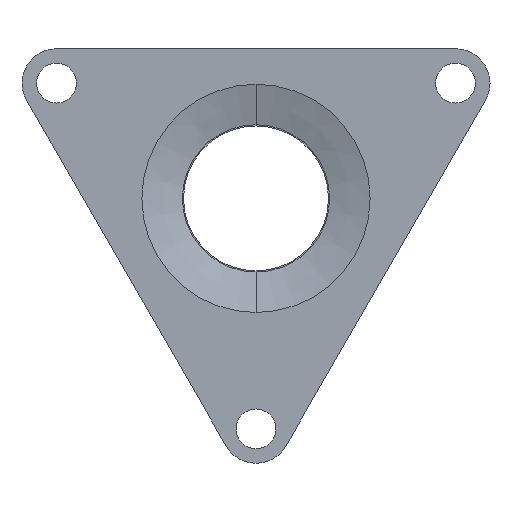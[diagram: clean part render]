
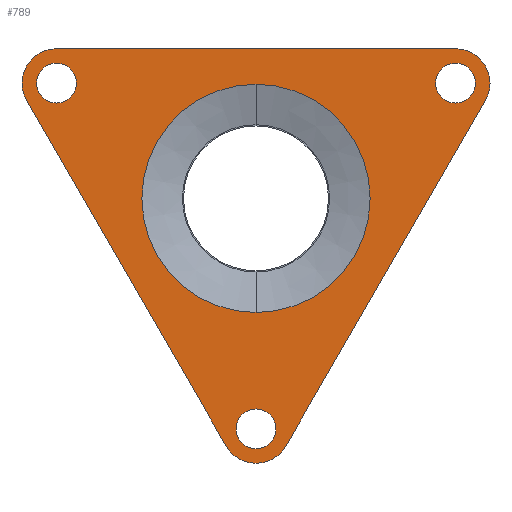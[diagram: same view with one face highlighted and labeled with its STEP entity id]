
A CAD part, front view. The second image highlights one B-rep face of the part: STEP entity #789.
In plain terms, the highlighted planar face has unit normal (0, -1, 0).
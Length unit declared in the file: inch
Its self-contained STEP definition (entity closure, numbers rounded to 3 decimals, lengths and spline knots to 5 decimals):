
#4 = EDGE_LOOP ( 'NONE', ( #362, #107 ) ) ;
#24 = EDGE_CURVE ( 'NONE', #232, #419, #801, .T. ) ;
#26 = FACE_BOUND ( 'NONE', #958, .T. ) ;
#32 = DIRECTION ( 'NONE',  ( 0., 0., 1. ) ) ;
#33 = PLANE ( 'NONE',  #431 ) ;
#39 = FACE_BOUND ( 'NONE', #413, .T. ) ;
#41 = EDGE_CURVE ( 'NONE', #582, #478, #588, .T. ) ;
#53 = DIRECTION ( 'NONE',  ( 0., 0., 1. ) ) ;
#56 = CIRCLE ( 'NONE', #441, 0.18701 ) ;
#60 = DIRECTION ( 'NONE',  ( 1., 0., 0. ) ) ;
#71 = AXIS2_PLACEMENT_3D ( 'NONE', #591, #596, #606 ) ;
#73 = CARTESIAN_POINT ( 'NONE',  ( 1.24622, 0., 0.5325 ) ) ;
#85 = CARTESIAN_POINT ( 'NONE',  ( -1.08426, 0., 0.626 ) ) ;
#102 = EDGE_LOOP ( 'NONE', ( #352, #541 ) ) ;
#107 = ORIENTED_EDGE ( 'NONE', *, *, #264, .T. ) ;
#110 = DIRECTION ( 'NONE',  ( 0., 0., 1. ) ) ;
#112 = AXIS2_PLACEMENT_3D ( 'NONE', #897, #150, #146 ) ;
#120 = VERTEX_POINT ( 'NONE', #148 ) ;
#146 = DIRECTION ( 'NONE',  ( 0., 0., 1. ) ) ;
#148 = CARTESIAN_POINT ( 'NONE',  ( -0.16195, 0., -1.3455 ) ) ;
#149 = CARTESIAN_POINT ( 'NONE',  ( 0., 0., -0.62008 ) ) ;
#150 = DIRECTION ( 'NONE',  ( 0., 1., 0. ) ) ;
#156 = EDGE_CURVE ( 'NONE', #779, #232, #56, .T. ) ;
#162 = VERTEX_POINT ( 'NONE', #73 ) ;
#173 = LINE ( 'NONE', #936, #901 ) ;
#176 = ORIENTED_EDGE ( 'NONE', *, *, #233, .F. ) ;
#186 = DIRECTION ( 'NONE',  ( -0.5, 0., 0.866 ) ) ;
#187 = DIRECTION ( 'NONE',  ( 0., 0., 1. ) ) ;
#189 = VERTEX_POINT ( 'NONE', #304 ) ;
#190 = EDGE_CURVE ( 'NONE', #493, #120, #380, .T. ) ;
#195 = CIRCLE ( 'NONE', #240, 0.10827 ) ;
#204 = EDGE_CURVE ( 'NONE', #517, #773, #619, .T. ) ;
#212 = DIRECTION ( 'NONE',  ( 0., 1., 0. ) ) ;
#224 = CIRCLE ( 'NONE', #339, 0.18701 ) ;
#226 = DIRECTION ( 'NONE',  ( 0., 1., 0. ) ) ;
#229 = DIRECTION ( 'NONE',  ( 0., 1., 0. ) ) ;
#232 = VERTEX_POINT ( 'NONE', #547 ) ;
#233 = EDGE_CURVE ( 'NONE', #120, #779, #173, .T. ) ;
#240 = AXIS2_PLACEMENT_3D ( 'NONE', #85, #456, #686 ) ;
#244 = CARTESIAN_POINT ( 'NONE',  ( 1.08426, 0., 0.626 ) ) ;
#262 = CARTESIAN_POINT ( 'NONE',  ( 0., 0., -1.14373 ) ) ;
#264 = EDGE_CURVE ( 'NONE', #478, #582, #962, .T. ) ;
#280 = LINE ( 'NONE', #578, #510 ) ;
#291 = EDGE_CURVE ( 'NONE', #419, #162, #224, .T. ) ;
#304 = CARTESIAN_POINT ( 'NONE',  ( 1.08426, 0., 0.51773 ) ) ;
#306 = CARTESIAN_POINT ( 'NONE',  ( 1.08426, 0., 0.81301 ) ) ;
#328 = FACE_BOUND ( 'NONE', #4, .T. ) ;
#331 = AXIS2_PLACEMENT_3D ( 'NONE', #434, #914, #32 ) ;
#339 = AXIS2_PLACEMENT_3D ( 'NONE', #244, #790, #844 ) ;
#350 = CARTESIAN_POINT ( 'NONE',  ( 0.16195, 0., -1.3455 ) ) ;
#352 = ORIENTED_EDGE ( 'NONE', *, *, #604, .T. ) ;
#354 = CARTESIAN_POINT ( 'NONE',  ( -1.08426, 0., 0.81301 ) ) ;
#362 = ORIENTED_EDGE ( 'NONE', *, *, #41, .T. ) ;
#367 = VERTEX_POINT ( 'NONE', #350 ) ;
#378 = CARTESIAN_POINT ( 'NONE',  ( 1.08426, 0., 0.626 ) ) ;
#379 = CARTESIAN_POINT ( 'NONE',  ( 0., 0., 0.62008 ) ) ;
#380 = CIRCLE ( 'NONE', #71, 0.18701 ) ;
#383 = DIRECTION ( 'NONE',  ( 0., 1., 0. ) ) ;
#400 = VERTEX_POINT ( 'NONE', #982 ) ;
#412 = DIRECTION ( 'NONE',  ( 0., 1., 0. ) ) ;
#413 = EDGE_LOOP ( 'NONE', ( #701, #618 ) ) ;
#415 = DIRECTION ( 'NONE',  ( 0., 0., 1. ) ) ;
#417 = AXIS2_PLACEMENT_3D ( 'NONE', #849, #552, #415 ) ;
#419 = VERTEX_POINT ( 'NONE', #306 ) ;
#431 = AXIS2_PLACEMENT_3D ( 'NONE', #716, #623, #187 ) ;
#434 = CARTESIAN_POINT ( 'NONE',  ( -1.08426, 0., 0.626 ) ) ;
#436 = ORIENTED_EDGE ( 'NONE', *, *, #876, .T. ) ;
#437 = EDGE_CURVE ( 'NONE', #754, #609, #492, .T. ) ;
#441 = AXIS2_PLACEMENT_3D ( 'NONE', #760, #229, #910 ) ;
#446 = AXIS2_PLACEMENT_3D ( 'NONE', #504, #212, #53 ) ;
#456 = DIRECTION ( 'NONE',  ( 0., 1., 0. ) ) ;
#466 = CARTESIAN_POINT ( 'NONE',  ( 0., 0., -1.252 ) ) ;
#468 = EDGE_LOOP ( 'NONE', ( #762, #983, #956, #759, #707, #176, #655 ) ) ;
#478 = VERTEX_POINT ( 'NONE', #379 ) ;
#492 = CIRCLE ( 'NONE', #112, 0.10827 ) ;
#493 = VERTEX_POINT ( 'NONE', #593 ) ;
#504 = CARTESIAN_POINT ( 'NONE',  ( 1.08426, 0., 0.626 ) ) ;
#510 = VECTOR ( 'NONE', #880, 39.37008 ) ;
#515 = DIRECTION ( 'NONE',  ( 0., 1., 0. ) ) ;
#517 = VERTEX_POINT ( 'NONE', #587 ) ;
#541 = ORIENTED_EDGE ( 'NONE', *, *, #204, .T. ) ;
#547 = CARTESIAN_POINT ( 'NONE',  ( -1.08426, 0., 0.81301 ) ) ;
#552 = DIRECTION ( 'NONE',  ( 0., 1., 0. ) ) ;
#554 = CARTESIAN_POINT ( 'NONE',  ( -1.08426, 0., 0.51773 ) ) ;
#570 = AXIS2_PLACEMENT_3D ( 'NONE', #466, #226, #981 ) ;
#576 = ORIENTED_EDGE ( 'NONE', *, *, #711, .T. ) ;
#578 = CARTESIAN_POINT ( 'NONE',  ( 1.24622, 0., 0.5325 ) ) ;
#582 = VERTEX_POINT ( 'NONE', #149 ) ;
#587 = CARTESIAN_POINT ( 'NONE',  ( -1.08426, 0., 0.73427 ) ) ;
#588 = CIRCLE ( 'NONE', #719, 0.62008 ) ;
#591 = CARTESIAN_POINT ( 'NONE',  ( 0., 0., -1.252 ) ) ;
#593 = CARTESIAN_POINT ( 'NONE',  ( 0., 0., -1.43901 ) ) ;
#596 = DIRECTION ( 'NONE',  ( 0., 1., 0. ) ) ;
#604 = EDGE_CURVE ( 'NONE', #773, #517, #195, .T. ) ;
#606 = DIRECTION ( 'NONE',  ( 0., 0., 1. ) ) ;
#609 = VERTEX_POINT ( 'NONE', #905 ) ;
#618 = ORIENTED_EDGE ( 'NONE', *, *, #437, .T. ) ;
#619 = CIRCLE ( 'NONE', #331, 0.10827 ) ;
#623 = DIRECTION ( 'NONE',  ( 0., 1., 0. ) ) ;
#630 = FACE_BOUND ( 'NONE', #102, .T. ) ;
#655 = ORIENTED_EDGE ( 'NONE', *, *, #190, .F. ) ;
#661 = CARTESIAN_POINT ( 'NONE',  ( 0., 0., 0. ) ) ;
#670 = DIRECTION ( 'NONE',  ( 0., 0., 1. ) ) ;
#684 = EDGE_CURVE ( 'NONE', #367, #493, #903, .T. ) ;
#686 = DIRECTION ( 'NONE',  ( 0., 0., 1. ) ) ;
#701 = ORIENTED_EDGE ( 'NONE', *, *, #826, .T. ) ;
#707 = ORIENTED_EDGE ( 'NONE', *, *, #156, .F. ) ;
#710 = CARTESIAN_POINT ( 'NONE',  ( -1.24622, 0., 0.5325 ) ) ;
#711 = EDGE_CURVE ( 'NONE', #189, #400, #730, .T. ) ;
#716 = CARTESIAN_POINT ( 'NONE',  ( 0., 0., -1.252 ) ) ;
#719 = AXIS2_PLACEMENT_3D ( 'NONE', #661, #515, #809 ) ;
#730 = CIRCLE ( 'NONE', #756, 0.10827 ) ;
#754 = VERTEX_POINT ( 'NONE', #262 ) ;
#756 = AXIS2_PLACEMENT_3D ( 'NONE', #378, #383, #670 ) ;
#759 = ORIENTED_EDGE ( 'NONE', *, *, #24, .F. ) ;
#760 = CARTESIAN_POINT ( 'NONE',  ( -1.08426, 0., 0.626 ) ) ;
#762 = ORIENTED_EDGE ( 'NONE', *, *, #684, .F. ) ;
#773 = VERTEX_POINT ( 'NONE', #554 ) ;
#779 = VERTEX_POINT ( 'NONE', #710 ) ;
#783 = CARTESIAN_POINT ( 'NONE',  ( 0., 0., -1.252 ) ) ;
#789 = ADVANCED_FACE ( 'NONE', ( #850, #328, #39, #26, #630 ), #33, .F. ) ;
#790 = DIRECTION ( 'NONE',  ( 0., 1., 0. ) ) ;
#801 = LINE ( 'NONE', #354, #811 ) ;
#809 = DIRECTION ( 'NONE',  ( 0., 0., 1. ) ) ;
#811 = VECTOR ( 'NONE', #60, 39.37008 ) ;
#826 = EDGE_CURVE ( 'NONE', #609, #754, #978, .T. ) ;
#844 = DIRECTION ( 'NONE',  ( 0., 0., 1. ) ) ;
#849 = CARTESIAN_POINT ( 'NONE',  ( 0., 0., 0. ) ) ;
#850 = FACE_OUTER_BOUND ( 'NONE', #468, .T. ) ;
#876 = EDGE_CURVE ( 'NONE', #400, #189, #935, .T. ) ;
#880 = DIRECTION ( 'NONE',  ( -0.5, 0., -0.866 ) ) ;
#897 = CARTESIAN_POINT ( 'NONE',  ( 0., 0., -1.252 ) ) ;
#901 = VECTOR ( 'NONE', #186, 39.37008 ) ;
#903 = CIRCLE ( 'NONE', #570, 0.18701 ) ;
#905 = CARTESIAN_POINT ( 'NONE',  ( 0., 0., -1.36027 ) ) ;
#910 = DIRECTION ( 'NONE',  ( 0., 0., 1. ) ) ;
#914 = DIRECTION ( 'NONE',  ( 0., 1., 0. ) ) ;
#919 = AXIS2_PLACEMENT_3D ( 'NONE', #783, #412, #110 ) ;
#925 = EDGE_CURVE ( 'NONE', #162, #367, #280, .T. ) ;
#935 = CIRCLE ( 'NONE', #446, 0.10827 ) ;
#936 = CARTESIAN_POINT ( 'NONE',  ( -0.16195, 0., -1.3455 ) ) ;
#956 = ORIENTED_EDGE ( 'NONE', *, *, #291, .F. ) ;
#958 = EDGE_LOOP ( 'NONE', ( #576, #436 ) ) ;
#962 = CIRCLE ( 'NONE', #417, 0.62008 ) ;
#978 = CIRCLE ( 'NONE', #919, 0.10827 ) ;
#981 = DIRECTION ( 'NONE',  ( 0., 0., 1. ) ) ;
#982 = CARTESIAN_POINT ( 'NONE',  ( 1.08426, 0., 0.73427 ) ) ;
#983 = ORIENTED_EDGE ( 'NONE', *, *, #925, .F. ) ;
